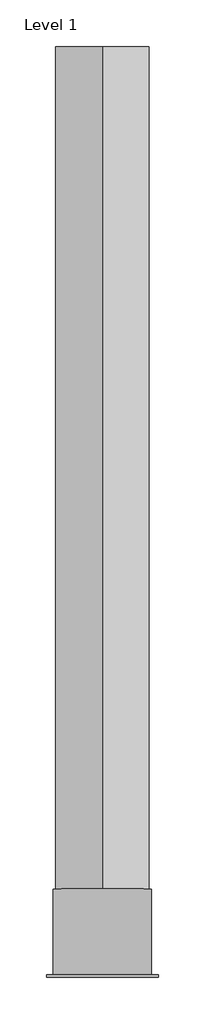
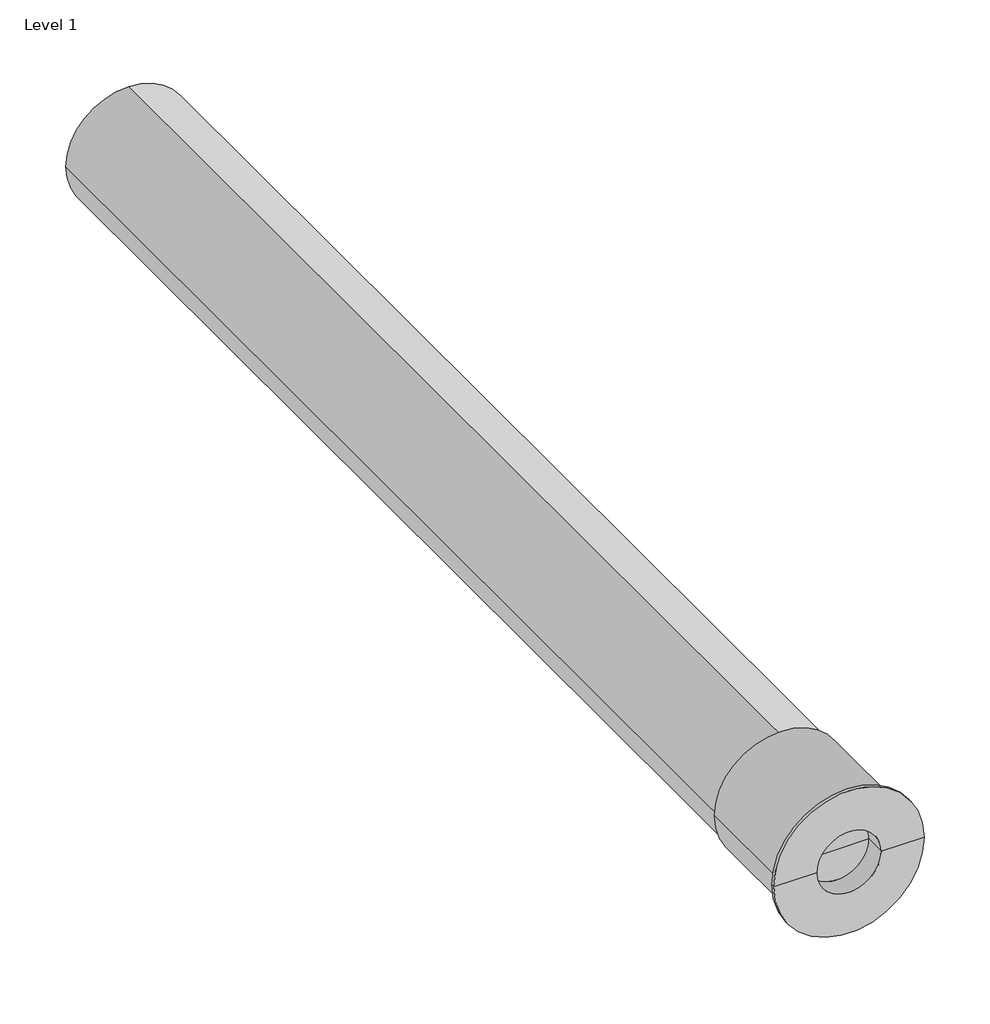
# One storey, incomplete: 2 pipe fittings, 1 pipe segment.
"""IFC4 building model written with IfcOpenShell, lengths in millimetres."""

from ifc_helpers import new_model, si_unit, point, frame, frame_2d, origin, place, context, project, spatial, circle_curve, trimmed, segment, composite_curve, outline, extrude, transform, mapped, element, save
from components import olive_grey_a489e773, olive_grey_8ea80df9

model = new_model("IFC4")

# Units and contexts
model_context = context("Model", 3, world=origin())
ifc_project = project(units=[si_unit("LENGTHUNIT", "METRE", prefix="MILLI")], contexts=[model_context])

# Site, building, storey
site = spatial("IfcSite", under=ifc_project)
building = spatial("IfcBuilding", under=site)
storey = spatial("IfcBuildingStorey", under=building, Name="Level 1", Elevation=0.0)

# Pipe fittings
placement = place(None, origin())
olive_grey_shape = olive_grey_a489e773(model_context)
element("IfcPipeFitting", 1, ObjectType="Wavin_PipeFitting_OsmaCompactSoilZDoNotUsePvcSwDoubleSocket : Olive Grey", at=placement, inside=storey, context=model_context, shape_type="MappedRepresentation", body=[
    mapped(olive_grey_shape, transform((4075.3065547, 1889.8547947, 150.0), x_axis=(0.0, -1.0, 0.0), y_axis=(1.0, 0.0, 0.0), z_axis=(0.0, 0.0, 1.0))),
])
olive_grey_2_shape = olive_grey_8ea80df9(model_context)
element("IfcPipeFitting", 2, ObjectType="Wavin_PipeFitting_OsmaCompactSoilPvcBossSocketPlug : Olive Grey", at=placement, inside=storey, context=model_context, shape_type="MappedRepresentation", body=[
    mapped(olive_grey_2_shape, transform((4075.3065547, 1834.8547947, 150.0), x_axis=(0.0, -1.0, 0.0), y_axis=(1.0, 0.0, 0.0), z_axis=(0.0, 0.0, 1.0))),
])

# Pipe segment
element("IfcPipeSegment", 3, ObjectType="Wavin_Pipe_OsmaCompactSoilPvcSolventWeldPlainEnded", at=placement, inside=storey, context=model_context, shape_type="SweptSolid", body=[
    extrude(outline(composite_curve([segment(trimmed(circle_curve(frame_2d((150.0, 4075.3065547)), 55.0), [point((150.0, 4020.3065547))], [point((95.0, 4075.3065547))], False, "CARTESIAN"), True, "CONTINUOUS"), segment(trimmed(circle_curve(frame_2d((150.0, 4075.3065547)), 55.0), [point((95.0, 4075.3065547))], [point((150.0, 4130.3065547))], False, "CARTESIAN"), True, "CONTINUOUS"), segment(trimmed(circle_curve(frame_2d((150.0, 4075.3065547)), 55.0), [point((150.0, 4130.3065547))], [point((205.0, 4075.3065547))], False, "CARTESIAN"), True, "CONTINUOUS"), segment(trimmed(circle_curve(frame_2d((150.0, 4075.3065547)), 55.0), [point((205.0, 4075.3065547))], [point((150.0, 4020.3065547))], False, "CARTESIAN"), True, "CONTINUOUS")], self_intersect=False)), frame((0.0, 1889.8547947, 0.0), z_axis=(0.0, 1.0, 0.0), x_axis=(0.0, 0.0, 1.0)), (0.0, 0.0, 1.0), 1039.6654489),
])

save(model, "model.ifc")
